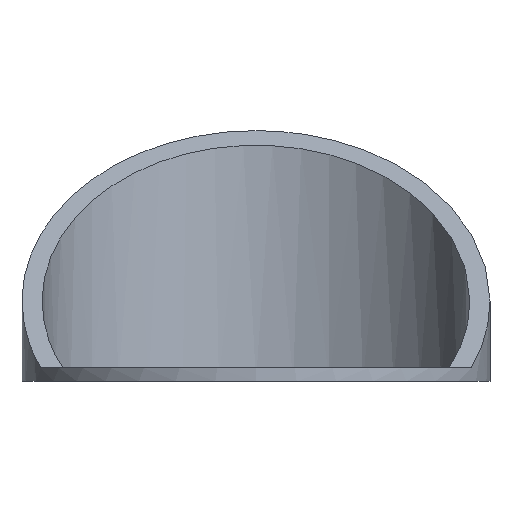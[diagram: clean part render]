
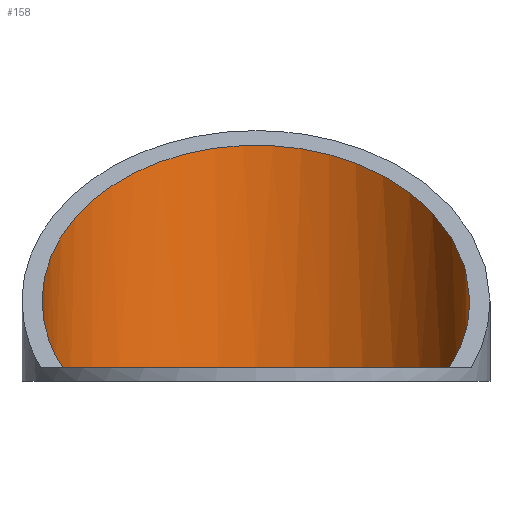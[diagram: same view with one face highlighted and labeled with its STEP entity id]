
A CAD part, front view. The second image highlights one B-rep face of the part: STEP entity #158.
In plain terms, the highlighted cylindrical face has radius 12.8 mm (diameter 25.6 mm), a full revolution.
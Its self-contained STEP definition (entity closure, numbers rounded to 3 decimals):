
#83 = VERTEX_POINT('',#84);
#84 = CARTESIAN_POINT('',(3.442,9.5,25.8));
#90 = EDGE_CURVE('',#91,#83,#93,.T.);
#91 = VERTEX_POINT('',#92);
#92 = CARTESIAN_POINT('',(27.8,15.,29.805));
#93 = ELLIPSE('',#94,15.834,12.8);
#94 = AXIS2_PLACEMENT_3D('',#95,#96,#97);
#95 = CARTESIAN_POINT('',(15.,15.,29.805));
#96 = DIRECTION('',(0.,-0.589,0.808));
#97 = DIRECTION('',(0.,-0.808,-0.589));
#99 = EDGE_CURVE('',#100,#91,#102,.T.);
#100 = VERTEX_POINT('',#101);
#101 = CARTESIAN_POINT('',(26.558,9.5,25.8));
#102 = ELLIPSE('',#103,15.834,12.8);
#103 = AXIS2_PLACEMENT_3D('',#104,#105,#106);
#104 = CARTESIAN_POINT('',(15.,15.,29.805));
#105 = DIRECTION('',(0.,-0.589,0.808));
#106 = DIRECTION('',(0.,-0.808,-0.589));
#127 = EDGE_CURVE('',#100,#83,#128,.T.);
#128 = CIRCLE('',#129,12.8);
#129 = AXIS2_PLACEMENT_3D('',#130,#131,#132);
#130 = CARTESIAN_POINT('',(15.,15.,25.8));
#131 = DIRECTION('',(0.,0.,-1.));
#132 = DIRECTION('',(1.,0.,0.));
#145 = EDGE_CURVE('',#146,#146,#148,.T.);
#146 = VERTEX_POINT('',#147);
#147 = CARTESIAN_POINT('',(27.8,15.,25.));
#148 = CIRCLE('',#149,12.8);
#149 = AXIS2_PLACEMENT_3D('',#150,#151,#152);
#150 = CARTESIAN_POINT('',(15.,15.,25.));
#151 = DIRECTION('',(0.,0.,-1.));
#152 = DIRECTION('',(1.,0.,0.));
#158 = ADVANCED_FACE('',(#159),#172,.F.);
#159 = FACE_BOUND('',#160,.T.);
#160 = EDGE_LOOP('',(#161,#162,#168,#169,#170,#171));
#161 = ORIENTED_EDGE('',*,*,#145,.T.);
#162 = ORIENTED_EDGE('',*,*,#163,.T.);
#163 = EDGE_CURVE('',#146,#91,#164,.T.);
#164 = LINE('',#165,#166);
#165 = CARTESIAN_POINT('',(27.8,15.,24.99));
#166 = VECTOR('',#167,1.);
#167 = DIRECTION('',(0.,0.,1.));
#168 = ORIENTED_EDGE('',*,*,#90,.T.);
#169 = ORIENTED_EDGE('',*,*,#127,.F.);
#170 = ORIENTED_EDGE('',*,*,#99,.T.);
#171 = ORIENTED_EDGE('',*,*,#163,.F.);
#172 = CYLINDRICAL_SURFACE('',#173,12.8);
#173 = AXIS2_PLACEMENT_3D('',#174,#175,#176);
#174 = CARTESIAN_POINT('',(15.,15.,24.99));
#175 = DIRECTION('',(-0.,-0.,-1.));
#176 = DIRECTION('',(1.,0.,0.));
